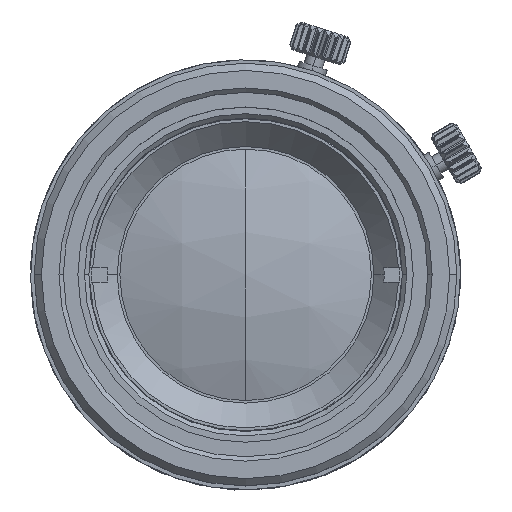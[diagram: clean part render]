
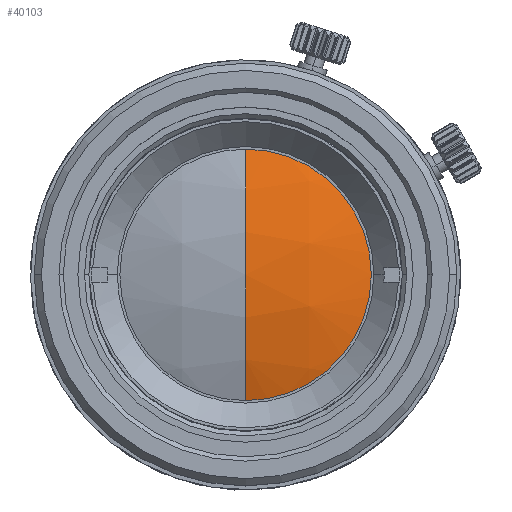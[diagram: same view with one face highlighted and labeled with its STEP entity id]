
A CAD part, top view. The second image highlights one B-rep face of the part: STEP entity #40103.
In plain terms, the highlighted spherical face has radius 25.68 mm.
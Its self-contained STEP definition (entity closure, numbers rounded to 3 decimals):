
#92 = DIRECTION ( 'NONE',  ( 0., 1., 0. ) ) ;
#3139 = AXIS2_PLACEMENT_3D ( 'NONE', #49245, #39403, #25178 ) ;
#3225 = CARTESIAN_POINT ( 'NONE',  ( 0., 0., -1.65 ) ) ;
#9523 = CARTESIAN_POINT ( 'NONE',  ( 0., 0., 24.03 ) ) ;
#15579 = CARTESIAN_POINT ( 'NONE',  ( 0., 0., -1.65 ) ) ;
#16471 = AXIS2_PLACEMENT_3D ( 'NONE', #15579, #47272, #23753 ) ;
#18905 = CARTESIAN_POINT ( 'NONE',  ( 0., -8.625, 22.538 ) ) ;
#19864 = CARTESIAN_POINT ( 'NONE',  ( 0., 8.625, 22.538 ) ) ;
#23087 = DIRECTION ( 'NONE',  ( 1., 0., 0. ) ) ;
#23753 = DIRECTION ( 'NONE',  ( 0., 0., 1. ) ) ;
#25178 = DIRECTION ( 'NONE',  ( 0., 1., 0. ) ) ;
#25427 = FACE_OUTER_BOUND ( 'NONE', #37863, .T. ) ;
#25724 = CIRCLE ( 'NONE', #33151, 25.68 ) ;
#26411 = VERTEX_POINT ( 'NONE', #18905 ) ;
#28152 = AXIS2_PLACEMENT_3D ( 'NONE', #40204, #32074, #92 ) ;
#30126 = ORIENTED_EDGE ( 'NONE', *, *, #39118, .F. ) ;
#30402 = SPHERICAL_SURFACE ( 'NONE', #3139, 25.68 ) ;
#31485 = ORIENTED_EDGE ( 'NONE', *, *, #34441, .T. ) ;
#32074 = DIRECTION ( 'NONE',  ( 0., 0., -1. ) ) ;
#32282 = CIRCLE ( 'NONE', #28152, 8.625 ) ;
#33151 = AXIS2_PLACEMENT_3D ( 'NONE', #3225, #23087, #46430 ) ;
#34441 = EDGE_CURVE ( 'NONE', #37802, #26411, #25724, .T. ) ;
#34538 = EDGE_CURVE ( 'NONE', #37802, #34931, #49154, .T. ) ;
#34931 = VERTEX_POINT ( 'NONE', #19864 ) ;
#37802 = VERTEX_POINT ( 'NONE', #9523 ) ;
#37863 = EDGE_LOOP ( 'NONE', ( #46576, #31485, #30126 ) ) ;
#39118 = EDGE_CURVE ( 'NONE', #34931, #26411, #32282, .T. ) ;
#39403 = DIRECTION ( 'NONE',  ( 1., 0., 0. ) ) ;
#40103 = ADVANCED_FACE ( 'NONE', ( #25427 ), #30402, .T. ) ;
#40204 = CARTESIAN_POINT ( 'NONE',  ( 0., 0., 22.538 ) ) ;
#46430 = DIRECTION ( 'NONE',  ( 0., 1., 0. ) ) ;
#46576 = ORIENTED_EDGE ( 'NONE', *, *, #34538, .F. ) ;
#47272 = DIRECTION ( 'NONE',  ( -1., 0., 0. ) ) ;
#49154 = CIRCLE ( 'NONE', #16471, 25.68 ) ;
#49245 = CARTESIAN_POINT ( 'NONE',  ( 0., 0., -1.65 ) ) ;
